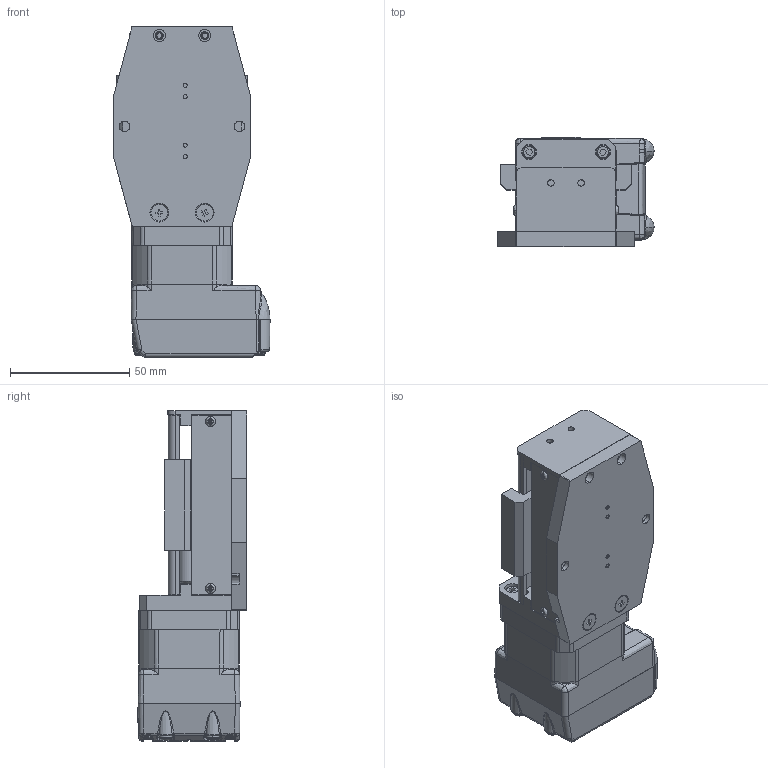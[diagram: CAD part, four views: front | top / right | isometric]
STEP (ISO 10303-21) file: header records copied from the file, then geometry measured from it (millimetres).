
FILE_DESCRIPTION (( 'STEP AP214' ), '1' );
FILE_NAME ('L3506.050-STA_v2_20180817.STEP', '2018-08-22T11:33:33', ( '' ), ( '' ), 'SwSTEP 2.0', 'SolidWorks 2017', '' );
FILE_SCHEMA (( 'AUTOMOTIVE_DESIGN' ));
Length unit declared in the file: millimetre
Products named in the file (1): L3506.050-STA_v2_20180817
Bounding box: 65.52 x 46.1 x 138.89 mm (x, y, z)
Surface area: 80797 mm2 (no closed solid volume)
Topology: 0 solids, 24 shells, 1223 faces, 3399 edges, 2253 vertices
Faces by surface type: plane 472, cylinder 334, bspline 271, cone 111, torus 35
Entity records: 73122 total; most frequent: CARTESIAN_POINT 44272, ORIENTED_EDGE 6685, DIRECTION 4625, EDGE_CURVE 3354, VERTEX_POINT 2253, AXIS2_PLACEMENT_3D 1619, VECTOR 1387, LINE 1387
